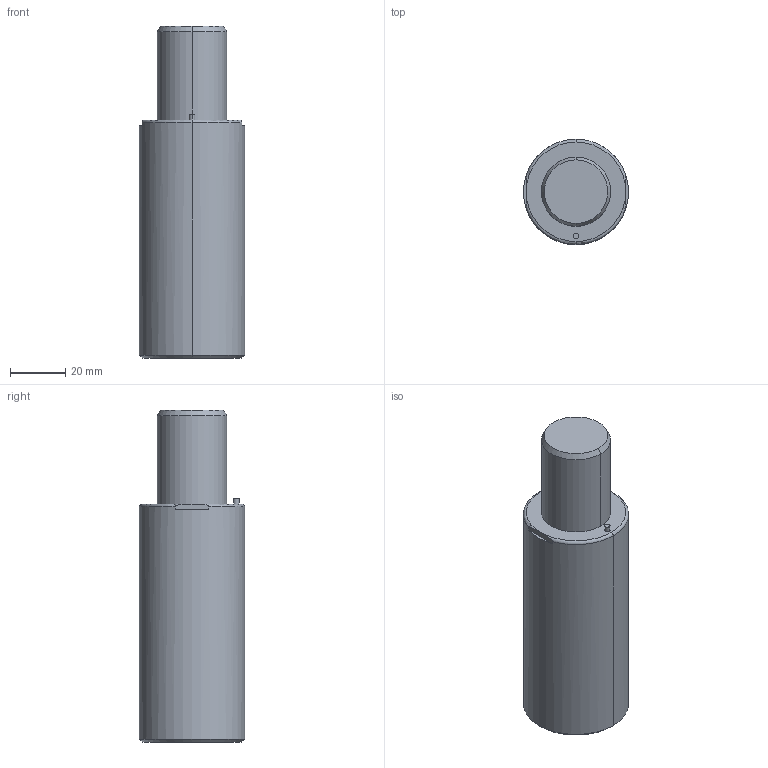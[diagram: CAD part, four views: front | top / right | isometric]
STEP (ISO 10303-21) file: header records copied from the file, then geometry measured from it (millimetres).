
FILE_DESCRIPTION(/* description */ (''),/* implementation_level */ '2;1');
FILE_NAME(/* name */ '3d_gsx38-32_03977_r00.stp',/* time_stamp */ '2011-01-10T14:15:13+09:00',/* author */ ('MISUMI'),/* organization */ (''),/* preprocessor_version */ 'ST-DEVELOPER v11',/* originating_system */ 'UGS - NX 5.0',/* authorisation */ '');
FILE_SCHEMA (('CONFIG_CONTROL_DESIGN'));
Length unit declared in the file: millimetre
Products named in the file (1): 3d_gsx38-32_03977_r00
Bounding box: 38 x 38 x 120 mm (x, y, z)
Volume: 112160.5 mm3; surface area: 16326.1 mm2
Topology: 1 solids, 1 shells, 59 faces, 128 edges, 76 vertices
Faces by surface type: cylinder 28, plane 15, cone 12, torus 4
Entity records: 1718 total; most frequent: CARTESIAN_POINT 328, DIRECTION 306, ORIENTED_EDGE 240, AXIS2_PLACEMENT_3D 130, EDGE_CURVE 120, VERTEX_POINT 76, EDGE_LOOP 72, CIRCLE 70
